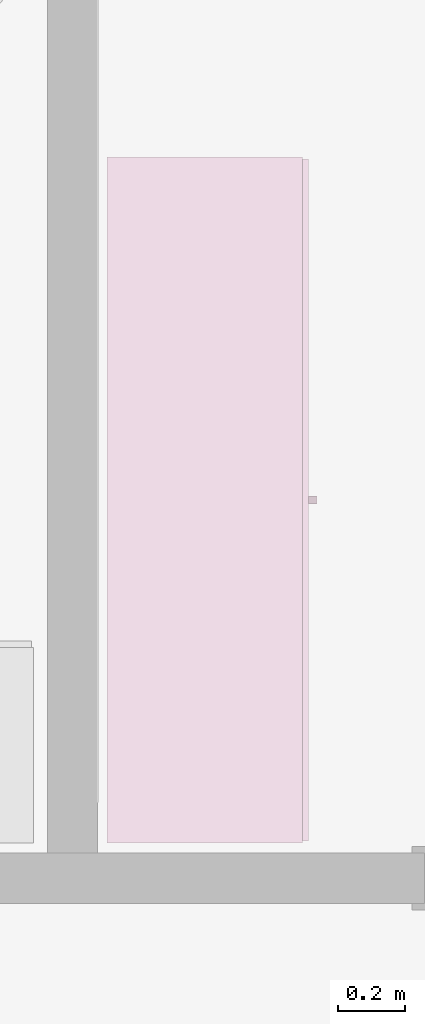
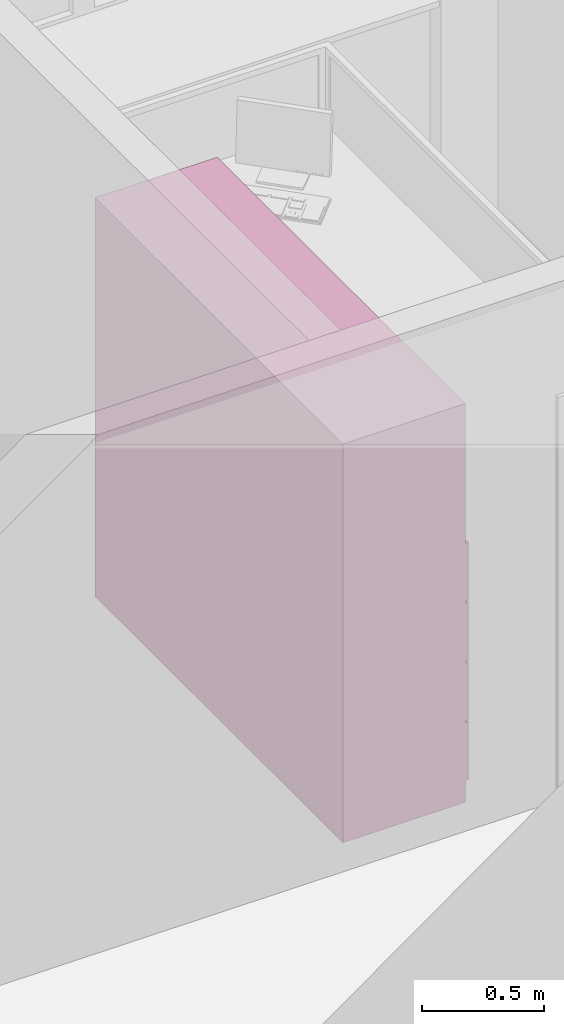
# One storey, part 110 of 127: 1 furnishing.
"""IFC2X3 building model written with IfcOpenShell, lengths in millimetres."""

import ifcopenshell
import ifcopenshell.guid

model = None  # the IFC model being written
_history = None  # IfcOwnerHistory: only IFC2X3 demands one
_inside = {}  # id of a spatial element -> (the spatial element, [elements in it])
_under = {}  # id of a project, library or spatial element -> (it, [spatial elements below it])
_declared = {}  # id of a project -> (the project, [libraries it declares])
_typed = {}  # id of a type object -> (the type object, [elements of that type])
_made_of = {}  # id of a material, layer set ... -> (it, [elements and type objects made of it])


def new_model(schema):
    """Start an empty IFC model of exactly this schema.

    Asked for "IFC4X3", IfcOpenShell would pick the latest addendum, in which some entities
    have other attributes; the version numbers below select the first issue.
    IFC2X3 requires an IfcOwnerHistory on every rooted entity: one is made here for all.
    """
    global model, _history
    if schema == "IFC4X3":
        model = ifcopenshell.file(schema_version=(4, 3, 0, 0))
    else:
        model = ifcopenshell.file(schema=schema)
    _inside.clear()
    _under.clear()
    _declared.clear()
    _typed.clear()
    _made_of.clear()
    _history = None
    if model.schema == "IFC2X3":
        org = make("IfcOrganization", Name="unknown")
        user = make(
            "IfcPersonAndOrganization",
            ThePerson=make("IfcPerson", FamilyName="unknown"),
            TheOrganization=org,
        )
        app = make(
            "IfcApplication",
            ApplicationDeveloper=org,
            Version="unknown",
            ApplicationFullName="unknown",
            ApplicationIdentifier="unknown",
        )
        _history = make(
            "IfcOwnerHistory",
            OwningUser=user,
            OwningApplication=app,
            ChangeAction="ADDED",
            CreationDate=0,
        )
    return model


def make(cls, **values):
    """One entity of the class cls with the attributes given. An attribute that is None is left unset."""
    return model.create_entity(
        cls, **{name: value for name, value in values.items() if value is not None}
    )


def entity(cls, *values):
    """Any entity or typed value of the class cls, its attributes in the order of the schema. None: left unset."""
    e = model.create_entity(cls)
    for i, value in enumerate(values):
        if value is not None:
            e[i] = value
    return e


def rooted(cls, **values):
    """An entity with a GlobalId (a new one), such as an element, a storey or a relation."""
    return make(cls, GlobalId=ifcopenshell.guid.new(), OwnerHistory=_history, **values)


def si_unit(unit_type, name, prefix=None):
    """IfcSIUnit, for example si_unit("LENGTHUNIT", "METRE", prefix="MILLI")."""
    return make("IfcSIUnit", UnitType=unit_type, Prefix=prefix, Name=name)


def converted_unit(unit_type, name, factor, base, dimensions=None, offset=None):
    """IfcConversionBasedUnit, such as the inch: factor (a typed value) times the base unit."""
    return make(
        "IfcConversionBasedUnit"
        if offset is None
        else "IfcConversionBasedUnitWithOffset",
        ConversionOffset=offset,
        Dimensions=None
        if dimensions is None
        else entity("IfcDimensionalExponents", *dimensions),
        UnitType=unit_type,
        Name=name,
        ConversionFactor=make(
            "IfcMeasureWithUnit", ValueComponent=factor, UnitComponent=base
        ),
    )


def derived_unit(unit_type, elements):
    """IfcDerivedUnit: a product of units, each with its exponent."""
    return make(
        "IfcDerivedUnit",
        Elements=[
            make("IfcDerivedUnitElement", Unit=unit, Exponent=power)
            for unit, power in elements
        ],
        UnitType=unit_type,
    )


def money_unit(currency):
    """IfcMonetaryUnit."""
    return make("IfcMonetaryUnit", Currency=currency)


def assignment(units):
    """IfcUnitAssignment: the units of a project."""
    return None if units is None else make("IfcUnitAssignment", Units=units)


def point(xyz):
    """IfcCartesianPoint."""
    return None if xyz is None else make("IfcCartesianPoint", Coordinates=xyz)


def direction(xyz):
    """IfcDirection."""
    return None if xyz is None else make("IfcDirection", DirectionRatios=xyz)


def frame(location, z_axis=None, x_axis=None):
    """IfcAxis2Placement3D, a coordinate frame: its origin and axes. An axis left out is left unset."""
    return make(
        "IfcAxis2Placement3D",
        Location=point(location),
        Axis=direction(z_axis),
        RefDirection=direction(x_axis),
    )


def origin_with_axes():
    """The frame at (0, 0, 0) with the z axis (0, 0, 1) and the x axis (1, 0, 0) written out."""
    return frame((0.0, 0.0, 0.0), z_axis=(0.0, 0.0, 1.0), x_axis=(1.0, 0.0, 0.0))


def place(relative_to, where):
    """IfcLocalPlacement: puts the frame where relative to a parent placement (None: the world)."""
    return make(
        "IfcLocalPlacement", PlacementRelTo=relative_to, RelativePlacement=where
    )


def context(
    kind, dimensions, precision=None, world=None, true_north=None, identifier=None
):
    """IfcGeometricRepresentationContext, for example the 3D "Model" context."""
    return make(
        "IfcGeometricRepresentationContext",
        ContextIdentifier=identifier,
        ContextType=kind,
        CoordinateSpaceDimension=dimensions,
        Precision=precision,
        WorldCoordinateSystem=world,
        TrueNorth=true_north,
    )


def subcontext(parent, identifier, kind, view, scale=None):
    """IfcGeometricRepresentationSubContext, for example "Body" below "Model"."""
    return make(
        "IfcGeometricRepresentationSubContext",
        ContextIdentifier=identifier,
        ContextType=kind,
        ParentContext=parent,
        TargetScale=scale,
        TargetView=view,
    )


def project(units=None, contexts=None):
    """IfcProject with its units and contexts."""
    return rooted(
        "IfcProject",
        Name="project",
        RepresentationContexts=contexts,
        UnitsInContext=assignment(units),
    )


def spatial(cls, under=None, at=None, **own):
    """A site, building, storey or space (cls), placed at a placement, below another one or the project."""
    s = rooted(cls, ObjectPlacement=at, **own)
    if under is not None:
        _under.setdefault(under.id(), (under, []))[1].append(s)
    return s


def faces_of(points, faces, orient=None, outer=None):
    """IfcFace entities. A face is a list of loops; a loop is a list of indices into points, from 0.

    orient and outer hold one flag for each loop. By default every Orientation is true, the
    first loop of a face is its IfcFaceOuterBound and the others are IfcFaceBound.
    """
    made = []
    for i, loops in enumerate(faces):
        bounds = []
        for j, loop in enumerate(loops):
            is_outer = j == 0 if outer is None else outer[i][j]
            bounds.append(
                make(
                    "IfcFaceOuterBound" if is_outer else "IfcFaceBound",
                    Bound=make("IfcPolyLoop", Polygon=[points[k] for k in loop]),
                    Orientation=True if orient is None else orient[i][j],
                )
            )
        made.append(make("IfcFace", Bounds=bounds))
    return made


def faceted_brep(points, faces, orient=None, outer=None, voids=None):
    """IfcFacetedBrep: a solid bounded by flat faces; with voids (closed shells), ...WithVoids."""
    shared = [point(p) for p in points]
    hull = make("IfcClosedShell", CfsFaces=faces_of(shared, faces, orient, outer))
    if voids is None:
        return make("IfcFacetedBrep", Outer=hull)
    return make(
        "IfcFacetedBrepWithVoids",
        Outer=hull,
        Voids=[
            make(cls, CfsFaces=faces_of(shared, fs, o, b)) for cls, fs, o, b in voids
        ],
    )


def shape(context_of_items, identifier, shape_type, items):
    """IfcShapeRepresentation: the items that make up one representation, for example the "Body"."""
    return make(
        "IfcShapeRepresentation",
        ContextOfItems=context_of_items,
        RepresentationIdentifier=identifier,
        RepresentationType=shape_type,
        Items=items,
    )


def made_of(thing, what):
    """Note that an element or type object is made of a material, layer set ...; save() writes the relation."""
    if what is not None:
        _made_of.setdefault(what.id(), (what, []))[1].append(thing)
    return thing


def type_object(cls, material=None, **own):
    """A type object (cls), such as IfcWallType, which elements share."""
    return made_of(rooted(cls, **own), material)


def element(
    cls,
    number,
    at=None,
    inside=None,
    cuts=None,
    type_object=None,
    material=None,
    context=None,
    identifier="Body",
    shape_type=None,
    held_by="IfcProductDefinitionShape",
    body=None,
    shapes=None,
    **own,
):
    """One element of the class cls, such as IfcWall. Its Tag is "e" and its number.

    at: its placement. inside: the storey or other place that contains it. cuts: it is an
    opening in that element (IfcRelVoidsElement). A single representation is given by context,
    identifier, shape_type and body (its items); several are given by shapes. held_by: the class
    of the entity that holds the representations. save() writes the other relations.
    """
    e = rooted(cls, Tag="e%d" % number, ObjectPlacement=at, **own)
    if body is not None:
        shapes = [shape(context, identifier, shape_type, body)]
    if shapes is not None:
        e.Representation = make(held_by, Representations=shapes)
    if inside is not None:
        _inside.setdefault(inside.id(), (inside, []))[1].append(e)
    if cuts is not None:
        rooted(
            "IfcRelVoidsElement", RelatingBuildingElement=cuts, RelatedOpeningElement=e
        )
    if type_object is not None:
        _typed.setdefault(type_object.id(), (type_object, []))[1].append(e)
    return made_of(e, material)


def aggregate(whole, parts):
    """IfcRelAggregates: a whole, such as a stair, and the parts it consists of."""
    return rooted("IfcRelAggregates", RelatingObject=whole, RelatedObjects=parts)


def save(model, path):
    """Write the relations noted so far, then the file.

    IfcRelAggregates (storeys below a building ...), IfcRelContainedInSpatialStructure (elements
    in a storey), IfcRelDefinesByType, IfcRelAssociatesMaterial and IfcRelDeclares: one each for
    every whole, place, type object, material and project.
    """
    for whole, parts in _under.values():
        aggregate(whole, parts)
    for where, things in _inside.values():
        rooted(
            "IfcRelContainedInSpatialStructure",
            RelatedElements=things,
            RelatingStructure=where,
        )
    for kind, things in _typed.values():
        rooted("IfcRelDefinesByType", RelatedObjects=things, RelatingType=kind)
    for what, things in _made_of.values():
        rooted("IfcRelAssociatesMaterial", RelatedObjects=things, RelatingMaterial=what)
    for by, libraries in _declared.values():
        rooted("IfcRelDeclares", RelatingContext=by, RelatedDefinitions=libraries)
    model.write(path)


model = new_model("IFC2X3")

# Units and contexts
model_context = context("Model", 3, precision=1e-05, world=origin_with_axes(), true_north=direction((0.0, 1.0)))
body_context = subcontext(model_context, "Body", "Model", "MODEL_VIEW")
ifc_project = project(units=[si_unit("LENGTHUNIT", "METRE", prefix="MILLI"), si_unit("AREAUNIT", "SQUARE_METRE"), si_unit("VOLUMEUNIT", "CUBIC_METRE"), converted_unit("PLANEANGLEUNIT", "DEGREE", entity("IfcPlaneAngleMeasure", 0.0174532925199), si_unit("PLANEANGLEUNIT", "RADIAN"), dimensions=[0, 0, 0, 0, 0, 0, 0]), si_unit("SOLIDANGLEUNIT", "STERADIAN"), money_unit("EUR"), converted_unit("TIMEUNIT", "Year", entity("IfcTimeMeasure", 31556926.0), si_unit("TIMEUNIT", "SECOND"), dimensions=[0, 0, 1, 0, 0, 0, 0]), si_unit("MASSUNIT", "GRAM", prefix="KILO"), si_unit("THERMODYNAMICTEMPERATUREUNIT", "DEGREE_CELSIUS"), si_unit("LUMINOUSINTENSITYUNIT", "LUMEN"), si_unit("ENERGYUNIT", "JOULE", prefix="MEGA"), derived_unit("THERMALCONDUCTANCEUNIT", [(si_unit("POWERUNIT", "WATT"), 1), (si_unit("LENGTHUNIT", "METRE"), -1), (si_unit("THERMODYNAMICTEMPERATUREUNIT", "KELVIN"), -1)]), derived_unit("SPECIFICHEATCAPACITYUNIT", [(si_unit("ENERGYUNIT", "JOULE"), 1), (si_unit("MASSUNIT", "GRAM", prefix="KILO"), -1), (si_unit("THERMODYNAMICTEMPERATUREUNIT", "KELVIN"), -1)]), derived_unit("MASSDENSITYUNIT", [(si_unit("MASSUNIT", "GRAM", prefix="KILO"), 1), (si_unit("VOLUMEUNIT", "CUBIC_METRE"), -1)])], contexts=[model_context])

# Site, building, storey
site_placement = place(None, origin_with_axes())
site = spatial("IfcSite", under=ifc_project, at=site_placement, Name="Site", CompositionType="ELEMENT")
building_placement = place(site_placement, origin_with_axes())
building = spatial("IfcBuilding", under=site, at=building_placement, Name="Building", CompositionType="ELEMENT")
storey_placement = place(building_placement, origin_with_axes())
storey = spatial("IfcBuildingStorey", under=building, at=storey_placement, Name="1 KORRUS", CompositionType="ELEMENT", Elevation=0.0)

# Furnishing
furnishing_element_type = type_object("IfcFurnishingElementType", Name="Model Element 52")
furnishing_placement = place(storey_placement, frame((25787.9425077, 67479.8866293, 0.0), z_axis=(0.0, 0.0, 1.0), x_axis=(0.0, 1.0, 0.0)))
element("IfcFurnishingElement", 1, at=furnishing_placement, inside=storey, type_object=furnishing_element_type, Name="FU - 003", context=body_context, shape_type="Brep", body=[
    faceted_brep([(2038.47220325, 19.0, 0.0), (0.0, 19.0, 0.0), (0.0, 600.000000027, 0.0), (2038.47220325, 600.000000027, 0.0), (2038.47220325, 19.0, 100.0), (0.0, 19.0, 100.0), (0.0, 600.000000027, 100.0), (2038.47220325, 600.000000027, 100.0)], [[[0, 1, 2, 3]], [[1, 0, 4, 5]], [[2, 1, 5, 6]], [[3, 2, 6, 7]], [[0, 3, 7, 4]], [[5, 4, 7, 6]]]),
    faceted_brep([(19.0, 600.000000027, 119.0), (19.0, 581.000000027, 119.0), (19.0, 581.000000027, 1981.0), (19.0, 600.000000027, 1981.0), (2019.47220325, 600.000000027, 119.0), (2019.47220325, 581.000000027, 119.0), (2019.47220325, 581.000000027, 1981.0), (2019.47220325, 600.000000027, 1981.0)], [[[0, 1, 2, 3]], [[0, 4, 5, 1]], [[1, 5, 6, 2]], [[3, 2, 6, 7]], [[4, 0, 3, 7]], [[5, 4, 7, 6]]]),
    faceted_brep([(2038.47220325, 19.0, 100.0), (2019.47220325, 19.0, 100.0), (2019.47220325, 600.000000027, 100.0), (2038.47220325, 600.000000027, 100.0), (2038.47220325, 19.0, 2000.0), (2019.47220325, 19.0, 2000.0), (2019.47220325, 600.000000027, 2000.0), (2038.47220325, 600.000000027, 2000.0)], [[[0, 1, 2, 3]], [[1, 0, 4, 5]], [[2, 1, 5, 6]], [[3, 2, 6, 7]], [[0, 3, 7, 4]], [[5, 4, 7, 6]]]),
    faceted_brep([(19.0, 19.0, 100.0), (0.0, 19.0, 100.0), (0.0, 600.000000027, 100.0), (19.0, 600.000000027, 100.0), (19.0, 19.0, 2000.0), (0.0, 19.0, 2000.0), (0.0, 600.000000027, 2000.0), (19.0, 600.000000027, 2000.0)], [[[0, 1, 2, 3]], [[1, 0, 4, 5]], [[2, 1, 5, 6]], [[3, 2, 6, 7]], [[0, 3, 7, 4]], [[5, 4, 7, 6]]]),
    faceted_brep([(2019.47220325, 19.0, 100.0), (19.0, 19.0, 100.0), (19.0, 600.000000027, 100.0), (2019.47220325, 600.000000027, 100.0), (2019.47220325, 19.0, 119.0), (19.0, 19.0, 119.0), (19.0, 600.000000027, 119.0), (2019.47220325, 600.000000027, 119.0)], [[[0, 1, 2, 3]], [[1, 0, 4, 5]], [[2, 1, 5, 6]], [[3, 2, 6, 7]], [[0, 3, 7, 4]], [[5, 4, 7, 6]]]),
    faceted_brep([(2019.47220325, 19.0, 1981.0), (19.0, 19.0, 1981.0), (19.0, 600.000000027, 1981.0), (2019.47220325, 600.000000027, 1981.0), (2019.47220325, 19.0, 2000.0), (19.0, 19.0, 2000.0), (19.0, 600.000000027, 2000.0), (2019.47220325, 600.000000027, 2000.0)], [[[0, 1, 2, 3]], [[1, 0, 4, 5]], [[2, 1, 5, 6]], [[3, 2, 6, 7]], [[0, 3, 7, 4]], [[5, 4, 7, 6]]]),
    faceted_brep([(5.0, 19.0, 105.0), (2033.47220325, 19.0, 105.0), (2033.47220325, 0.0, 105.0), (5.0, 0.0, 105.0), (5.0, 19.0, 395.0), (2033.47220325, 19.0, 395.0), (2033.47220325, 0.0, 395.0), (5.0, 0.0, 395.0)], [[[0, 1, 2, 3]], [[0, 4, 5, 1]], [[1, 5, 6, 2]], [[3, 2, 6, 7]], [[4, 0, 3, 7]], [[5, 4, 7, 6]]]),
    faceted_brep([(1029.62840647, 0.0, 244.0), (1025.23610163, 0.0, 239.607695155), (1019.23610163, 0.0, 238.0), (1013.23610163, 0.0, 239.607695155), (1008.84379678, 0.0, 244.0), (1007.23610163, 0.0, 250.0), (1008.84379678, 0.0, 256.0), (1013.23610163, 0.0, 260.392304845), (1019.23610163, 0.0, 262.0), (1025.23610163, 0.0, 260.392304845), (1029.62840647, 0.0, 256.0), (1031.23610163, 0.0, 250.0), (1029.62840647, -25.0, 244.0), (1025.23610163, -25.0, 239.607695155), (1019.23610163, -25.0, 238.0), (1013.23610163, -25.0, 239.607695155), (1008.84379678, -25.0, 244.0), (1007.23610163, -25.0, 250.0), (1008.84379678, -25.0, 256.0), (1013.23610163, -25.0, 260.392304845), (1019.23610163, -25.0, 262.0), (1025.23610163, -25.0, 260.392304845), (1029.62840647, -25.0, 256.0), (1031.23610163, -25.0, 250.0)], [[[0, 1, 2, 3, 4, 5, 6, 7, 8, 9, 10, 11]], [[1, 0, 12, 13]], [[2, 1, 13, 14]], [[3, 2, 14, 15]], [[4, 3, 15, 16]], [[5, 4, 16, 17]], [[6, 5, 17, 18]], [[7, 6, 18, 19]], [[8, 7, 19, 20]], [[9, 8, 20, 21]], [[10, 9, 21, 22]], [[11, 10, 22, 23]], [[0, 11, 23, 12]], [[12, 23, 22, 21, 20, 19, 18, 17, 16, 15, 14, 13]]]),
    faceted_brep([(5.0, 19.0, 405.0), (2033.47220325, 19.0, 405.0), (2033.47220325, 0.0, 405.0), (5.0, 0.0, 405.0), (5.0, 19.0, 695.0), (2033.47220325, 19.0, 695.0), (2033.47220325, 0.0, 695.0), (5.0, 0.0, 695.0)], [[[0, 1, 2, 3]], [[0, 4, 5, 1]], [[1, 5, 6, 2]], [[3, 2, 6, 7]], [[4, 0, 3, 7]], [[5, 4, 7, 6]]]),
    faceted_brep([(1029.62840647, 0.0, 544.0), (1025.23610163, 0.0, 539.607695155), (1019.23610163, 0.0, 538.0), (1013.23610163, 0.0, 539.607695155), (1008.84379678, 0.0, 544.0), (1007.23610163, 0.0, 550.0), (1008.84379678, 0.0, 556.0), (1013.23610163, 0.0, 560.392304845), (1019.23610163, 0.0, 562.0), (1025.23610163, 0.0, 560.392304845), (1029.62840647, 0.0, 556.0), (1031.23610163, 0.0, 550.0), (1029.62840647, -25.0, 544.0), (1025.23610163, -25.0, 539.607695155), (1019.23610163, -25.0, 538.0), (1013.23610163, -25.0, 539.607695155), (1008.84379678, -25.0, 544.0), (1007.23610163, -25.0, 550.0), (1008.84379678, -25.0, 556.0), (1013.23610163, -25.0, 560.392304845), (1019.23610163, -25.0, 562.0), (1025.23610163, -25.0, 560.392304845), (1029.62840647, -25.0, 556.0), (1031.23610163, -25.0, 550.0)], [[[0, 1, 2, 3, 4, 5, 6, 7, 8, 9, 10, 11]], [[1, 0, 12, 13]], [[2, 1, 13, 14]], [[3, 2, 14, 15]], [[4, 3, 15, 16]], [[5, 4, 16, 17]], [[6, 5, 17, 18]], [[7, 6, 18, 19]], [[8, 7, 19, 20]], [[9, 8, 20, 21]], [[10, 9, 21, 22]], [[11, 10, 22, 23]], [[0, 11, 23, 12]], [[12, 23, 22, 21, 20, 19, 18, 17, 16, 15, 14, 13]]]),
    faceted_brep([(5.0, 19.0, 705.0), (2033.47220325, 19.0, 705.0), (2033.47220325, 0.0, 705.0), (5.0, 0.0, 705.0), (5.0, 19.0, 995.0), (2033.47220325, 19.0, 995.0), (2033.47220325, 0.0, 995.0), (5.0, 0.0, 995.0)], [[[0, 1, 2, 3]], [[0, 4, 5, 1]], [[1, 5, 6, 2]], [[3, 2, 6, 7]], [[4, 0, 3, 7]], [[5, 4, 7, 6]]]),
    faceted_brep([(1029.62840647, 0.0, 844.0), (1025.23610163, 0.0, 839.607695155), (1019.23610163, 0.0, 838.0), (1013.23610163, 0.0, 839.607695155), (1008.84379678, 0.0, 844.0), (1007.23610163, 0.0, 850.0), (1008.84379678, 0.0, 856.0), (1013.23610163, 0.0, 860.392304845), (1019.23610163, 0.0, 862.0), (1025.23610163, 0.0, 860.392304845), (1029.62840647, 0.0, 856.0), (1031.23610163, 0.0, 850.0), (1029.62840647, -25.0, 844.0), (1025.23610163, -25.0, 839.607695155), (1019.23610163, -25.0, 838.0), (1013.23610163, -25.0, 839.607695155), (1008.84379678, -25.0, 844.0), (1007.23610163, -25.0, 850.0), (1008.84379678, -25.0, 856.0), (1013.23610163, -25.0, 860.392304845), (1019.23610163, -25.0, 862.0), (1025.23610163, -25.0, 860.392304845), (1029.62840647, -25.0, 856.0), (1031.23610163, -25.0, 850.0)], [[[0, 1, 2, 3, 4, 5, 6, 7, 8, 9, 10, 11]], [[1, 0, 12, 13]], [[2, 1, 13, 14]], [[3, 2, 14, 15]], [[4, 3, 15, 16]], [[5, 4, 16, 17]], [[6, 5, 17, 18]], [[7, 6, 18, 19]], [[8, 7, 19, 20]], [[9, 8, 20, 21]], [[10, 9, 21, 22]], [[11, 10, 22, 23]], [[0, 11, 23, 12]], [[12, 23, 22, 21, 20, 19, 18, 17, 16, 15, 14, 13]]]),
    faceted_brep([(5.0, 19.0, 1005.0), (2033.47220325, 19.0, 1005.0), (2033.47220325, 0.0, 1005.0), (5.0, 0.0, 1005.0), (5.0, 19.0, 1295.0), (2033.47220325, 19.0, 1295.0), (2033.47220325, 0.0, 1295.0), (5.0, 0.0, 1295.0)], [[[0, 1, 2, 3]], [[0, 4, 5, 1]], [[1, 5, 6, 2]], [[3, 2, 6, 7]], [[4, 0, 3, 7]], [[5, 4, 7, 6]]]),
    faceted_brep([(1029.62840647, 0.0, 1144.0), (1025.23610163, 0.0, 1139.60769515), (1019.23610163, 0.0, 1138.0), (1013.23610163, 0.0, 1139.60769515), (1008.84379678, 0.0, 1144.0), (1007.23610163, 0.0, 1150.0), (1008.84379678, 0.0, 1156.0), (1013.23610163, 0.0, 1160.39230485), (1019.23610163, 0.0, 1162.0), (1025.23610163, 0.0, 1160.39230485), (1029.62840647, 0.0, 1156.0), (1031.23610163, 0.0, 1150.0), (1029.62840647, -25.0, 1144.0), (1025.23610163, -25.0, 1139.60769515), (1019.23610163, -25.0, 1138.0), (1013.23610163, -25.0, 1139.60769515), (1008.84379678, -25.0, 1144.0), (1007.23610163, -25.0, 1150.0), (1008.84379678, -25.0, 1156.0), (1013.23610163, -25.0, 1160.39230485), (1019.23610163, -25.0, 1162.0), (1025.23610163, -25.0, 1160.39230485), (1029.62840647, -25.0, 1156.0), (1031.23610163, -25.0, 1150.0)], [[[0, 1, 2, 3, 4, 5, 6, 7, 8, 9, 10, 11]], [[1, 0, 12, 13]], [[2, 1, 13, 14]], [[3, 2, 14, 15]], [[4, 3, 15, 16]], [[5, 4, 16, 17]], [[6, 5, 17, 18]], [[7, 6, 18, 19]], [[8, 7, 19, 20]], [[9, 8, 20, 21]], [[10, 9, 21, 22]], [[11, 10, 22, 23]], [[0, 11, 23, 12]], [[12, 23, 22, 21, 20, 19, 18, 17, 16, 15, 14, 13]]]),
    faceted_brep([(19.0, 19.0, 390.5), (2019.47220325, 19.0, 390.5), (2019.47220325, 19.0, 409.5), (19.0, 19.0, 409.5), (19.0, 581.000000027, 390.5), (2019.47220325, 581.000000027, 390.5), (2019.47220325, 581.000000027, 409.5), (19.0, 581.000000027, 409.5)], [[[0, 1, 2, 3]], [[0, 4, 5, 1]], [[1, 5, 6, 2]], [[3, 2, 6, 7]], [[4, 0, 3, 7]], [[5, 4, 7, 6]]]),
    faceted_brep([(19.0, 19.0, 690.5), (2019.47220325, 19.0, 690.5), (2019.47220325, 19.0, 709.5), (19.0, 19.0, 709.5), (19.0, 581.000000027, 690.5), (2019.47220325, 581.000000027, 690.5), (2019.47220325, 581.000000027, 709.5), (19.0, 581.000000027, 709.5)], [[[0, 1, 2, 3]], [[0, 4, 5, 1]], [[1, 5, 6, 2]], [[3, 2, 6, 7]], [[4, 0, 3, 7]], [[5, 4, 7, 6]]]),
    faceted_brep([(19.0, 19.0, 990.5), (2019.47220325, 19.0, 990.5), (2019.47220325, 19.0, 1009.5), (19.0, 19.0, 1009.5), (19.0, 581.000000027, 990.5), (2019.47220325, 581.000000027, 990.5), (2019.47220325, 581.000000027, 1009.5), (19.0, 581.000000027, 1009.5)], [[[0, 1, 2, 3]], [[0, 4, 5, 1]], [[1, 5, 6, 2]], [[3, 2, 6, 7]], [[4, 0, 3, 7]], [[5, 4, 7, 6]]]),
    faceted_brep([(19.0, 19.0, 1290.5), (2019.47220325, 19.0, 1290.5), (2019.47220325, 19.0, 1309.5), (19.0, 19.0, 1309.5), (19.0, 581.000000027, 1290.5), (2019.47220325, 581.000000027, 1290.5), (2019.47220325, 581.000000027, 1309.5), (19.0, 581.000000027, 1309.5)], [[[0, 1, 2, 3]], [[0, 4, 5, 1]], [[1, 5, 6, 2]], [[3, 2, 6, 7]], [[4, 0, 3, 7]], [[5, 4, 7, 6]]]),
    faceted_brep([(2019.47220325, 19.0, 1463.125), (19.0, 19.0, 1463.125), (19.0, 581.000000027, 1463.125), (2019.47220325, 581.000000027, 1463.125), (2019.47220325, 19.0, 1482.125), (19.0, 19.0, 1482.125), (19.0, 581.000000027, 1482.125), (2019.47220325, 581.000000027, 1482.125)], [[[0, 1, 2, 3]], [[1, 0, 4, 5]], [[2, 1, 5, 6]], [[3, 2, 6, 7]], [[0, 3, 7, 4]], [[5, 4, 7, 6]]]),
    faceted_brep([(2019.47220325, 19.0, 1635.75), (19.0, 19.0, 1635.75), (19.0, 581.000000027, 1635.75), (2019.47220325, 581.000000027, 1635.75), (2019.47220325, 19.0, 1654.75), (19.0, 19.0, 1654.75), (19.0, 581.000000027, 1654.75), (2019.47220325, 581.000000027, 1654.75)], [[[0, 1, 2, 3]], [[1, 0, 4, 5]], [[2, 1, 5, 6]], [[3, 2, 6, 7]], [[0, 3, 7, 4]], [[5, 4, 7, 6]]]),
    faceted_brep([(2019.47220325, 19.0, 1808.375), (19.0, 19.0, 1808.375), (19.0, 581.000000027, 1808.375), (2019.47220325, 581.000000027, 1808.375), (2019.47220325, 19.0, 1827.375), (19.0, 19.0, 1827.375), (19.0, 581.000000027, 1827.375), (2019.47220325, 581.000000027, 1827.375)], [[[0, 1, 2, 3]], [[1, 0, 4, 5]], [[2, 1, 5, 6]], [[3, 2, 6, 7]], [[0, 3, 7, 4]], [[5, 4, 7, 6]]]),
])

save(model, "model.ifc")
